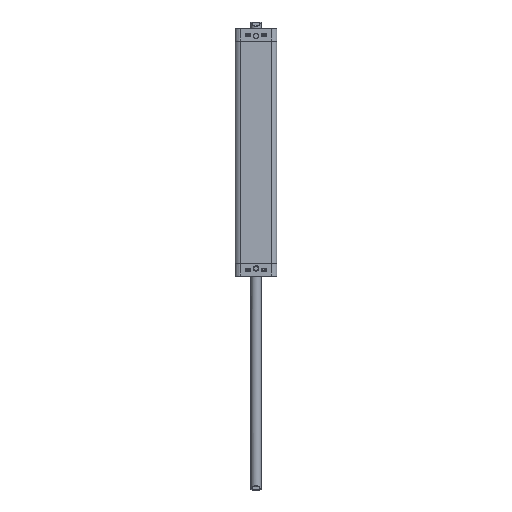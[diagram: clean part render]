
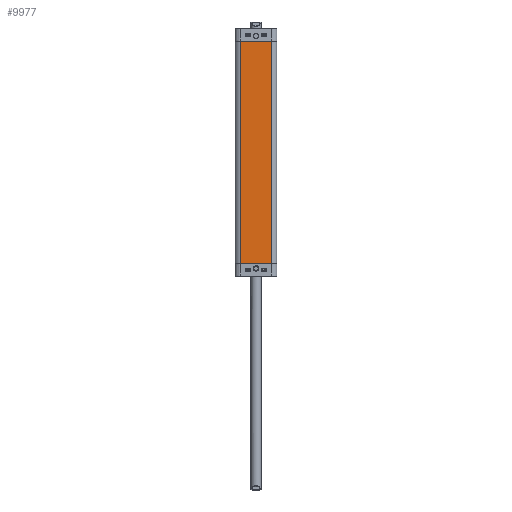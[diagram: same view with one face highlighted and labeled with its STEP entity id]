
A CAD part, left-side view. The second image highlights one B-rep face of the part: STEP entity #9977.
In plain terms, the highlighted planar face has unit normal (-1, 0, 0).
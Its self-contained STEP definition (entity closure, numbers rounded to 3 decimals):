
#548=LINE('',#17983,#1428);
#576=LINE('',#18096,#1456);
#658=LINE('',#18316,#1538);
#659=LINE('',#18318,#1539);
#1428=VECTOR('',#15287,1000.);
#1456=VECTOR('',#15373,1000.);
#1538=VECTOR('',#15619,1000.);
#1539=VECTOR('',#15622,1000.);
#2585=ORIENTED_EDGE('',*,*,#5211,.T.);
#2586=ORIENTED_EDGE('',*,*,#5377,.T.);
#2587=ORIENTED_EDGE('',*,*,#5378,.T.);
#2588=ORIENTED_EDGE('',*,*,#5267,.F.);
#5211=EDGE_CURVE('',#6662,#6663,#548,.T.);
#5267=EDGE_CURVE('',#6662,#6718,#576,.T.);
#5377=EDGE_CURVE('',#6663,#6773,#658,.T.);
#5378=EDGE_CURVE('',#6773,#6718,#659,.T.);
#6662=VERTEX_POINT('',#17984);
#6663=VERTEX_POINT('',#17985);
#6718=VERTEX_POINT('',#18097);
#6773=VERTEX_POINT('',#18315);
#8112=EDGE_LOOP('',(#2585,#2586,#2587,#2588));
#8894=FACE_BOUND('',#8112,.T.);
#9647=PLANE('',#14486);
#9977=ADVANCED_FACE('',(#8894),#9647,.T.);
#14486=AXIS2_PLACEMENT_3D('',#18317,#15620,#15621);
#15287=DIRECTION('',(0.,0.,-1.));
#15373=DIRECTION('',(0.,-1.,0.));
#15619=DIRECTION('',(0.,-1.,0.));
#15620=DIRECTION('',(-1.,0.,0.));
#15621=DIRECTION('',(0.,0.,1.));
#15622=DIRECTION('',(0.,0.,1.));
#17983=CARTESIAN_POINT('',(-20.,204.5,15.));
#17984=CARTESIAN_POINT('',(-20.,204.5,15.));
#17985=CARTESIAN_POINT('',(-20.,204.5,-15.));
#18096=CARTESIAN_POINT('',(-20.,9.5,15.));
#18097=CARTESIAN_POINT('',(-20.,-9.5,15.));
#18315=CARTESIAN_POINT('',(-20.,-9.5,-15.));
#18316=CARTESIAN_POINT('',(-20.,9.5,-15.));
#18317=CARTESIAN_POINT('',(-20.,0.,15.));
#18318=CARTESIAN_POINT('',(-20.,-9.5,-15.));
